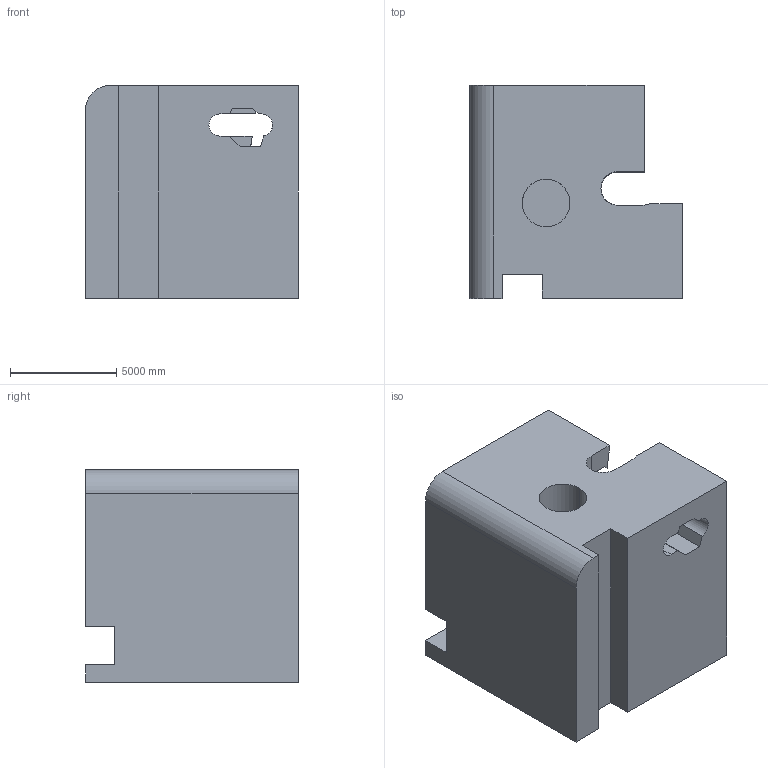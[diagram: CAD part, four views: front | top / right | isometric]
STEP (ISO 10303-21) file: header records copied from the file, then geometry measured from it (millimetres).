
FILE_DESCRIPTION (( 'STEP AP203' ), '1' );
FILE_NAME ('383.STEP', '2022-09-07T13:24:08', ( 'user' ), ( '' ), 'SwSTEP 2.0', 'SolidWorks 2021', '' );
FILE_SCHEMA (( 'CONFIG_CONTROL_DESIGN' ));
Length unit declared in the file: centimetre
Products named in the file (1): 383
Bounding box: 10000 x 10000 x 10000 mm (x, y, z)
Volume: 737429864984.4 mm3; surface area: 781560827.8 mm2
Topology: 1 solids, 1 shells, 64 faces, 182 edges, 122 vertices
Faces by surface type: plane 49, cylinder 15
Entity records: 2632 total; most frequent: CARTESIAN_POINT 873, ORIENTED_EDGE 364, DIRECTION 333, EDGE_CURVE 182, VECTOR 135, LINE 135, VERTEX_POINT 122, AXIS2_PLACEMENT_3D 99
